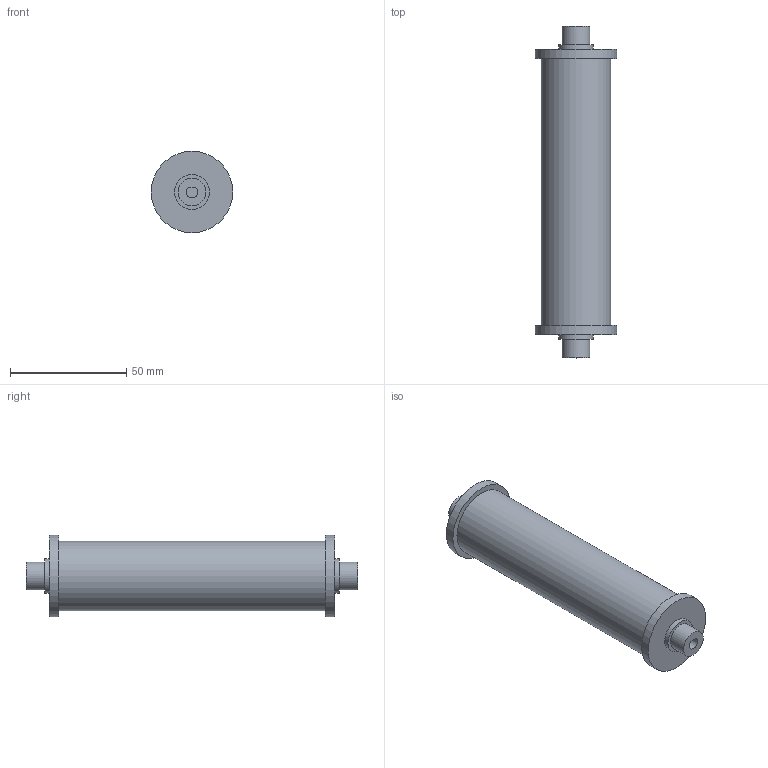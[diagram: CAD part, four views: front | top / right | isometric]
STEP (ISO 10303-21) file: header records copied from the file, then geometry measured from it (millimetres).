
FILE_DESCRIPTION(/* description */ ('STEP AP242','CAx-IF Rec.Pracs.---Representation and Presentation of Product Manufacturing Information (PMI)---4.0---2014-10-13','CAx-IF Rec.Pracs.---3D Tessellated Geometry---0.4---2014-09-14','2;1','CAx-IF Rec.Pracs.---User Defined Attributes---1.5---2016-08-15'),/* implementation_level */ '2;1');
FILE_NAME(/* name */ 'Full Assembly - Part 1',/* time_stamp */ '2025-11-03T04:00:12Z',/* author */ (''),/* organization */ (''),/* preprocessor_version */ 'ST-DEVELOPER v20',/* originating_system */ 'ONSHAPE BY PTC INC, 1.206',/* authorisation */ ' ');
FILE_SCHEMA (('AP242_MANAGED_MODEL_BASED_3D_ENGINEERING_MIM_LF { 1 0 10303 442 1 1 4 }'));
Length unit declared in the file: metre
Products named in the file (1): Part 1
Bounding box: 35 x 143 x 35 mm (x, y, z)
Volume: 91221.7 mm3; surface area: 15158.3 mm2
Topology: 1 solids, 1 shells, 18 faces, 29 edges, 20 vertices
Faces by surface type: plane 10, cylinder 8
Full cylindrical faces by diameter (mm): 11.95 x2, 14.95 x2, 30 x1, 35 x2
Entity records: 394 total; most frequent: DIRECTION 74, CARTESIAN_POINT 57, ORIENTED_EDGE 40, AXIS2_PLACEMENT_3D 35, EDGE_LOOP 32, FACE_BOUND 32, EDGE_CURVE 20, VERTEX_POINT 18
